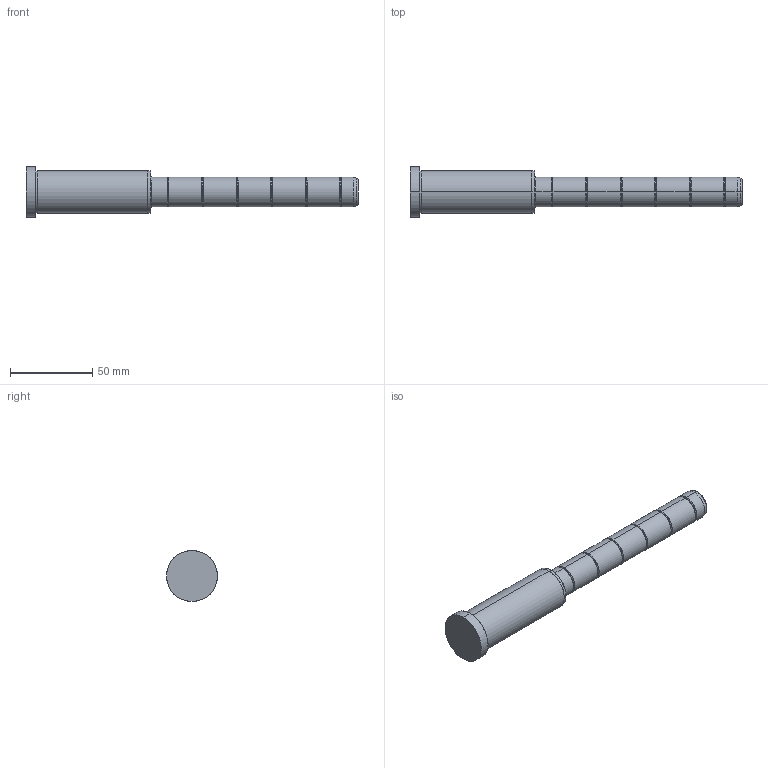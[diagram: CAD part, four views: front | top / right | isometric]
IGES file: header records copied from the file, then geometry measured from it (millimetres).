
Start section: SolidWorks IGES file using analytic representation for surfaces
Global section: file name: C:\Documents and Settings\kalite-mail\Desktop\IGS\D02\18\D02 - 18x76x126.IGS; native system: SolidWorks 2008; preprocessor: SolidWorks 2008; author: kalite-mail; date: 080616.155807; units: millimetre
Bounding box: 202 x 31 x 31 mm (x, y, z)
Surface area: 15023.9 mm2 (no closed solid volume)
Topology: 0 solids, 0 shells, 60 faces, 600 edges, 600 vertices
Faces by surface type: bspline 34, revolution 26
